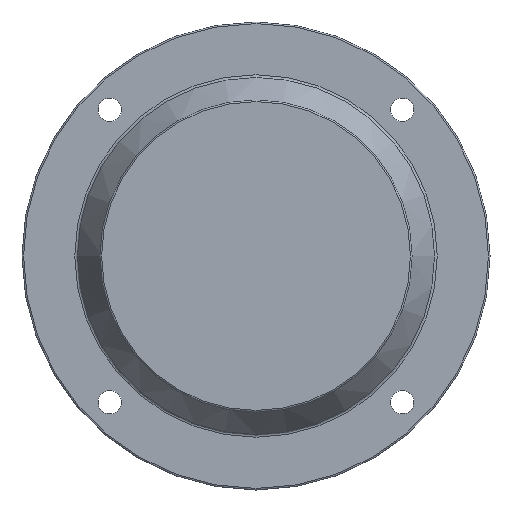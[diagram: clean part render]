
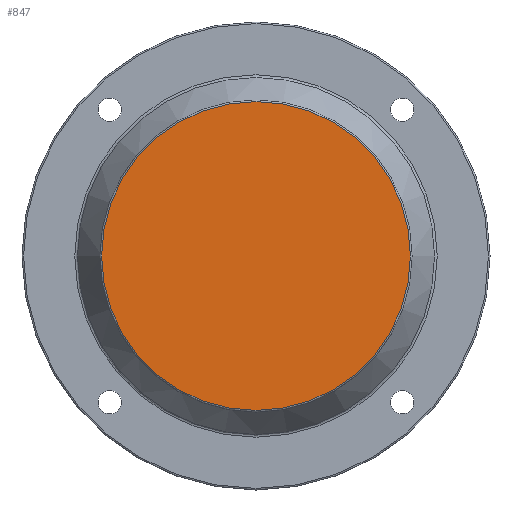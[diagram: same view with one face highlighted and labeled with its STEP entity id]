
A CAD part, left-side view. The second image highlights one B-rep face of the part: STEP entity #847.
In plain terms, the highlighted planar face has unit normal (-1, 0, 0).
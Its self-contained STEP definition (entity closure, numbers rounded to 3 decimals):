
#824=CARTESIAN_POINT('',(0.,99.0,0.0));
#825=VERTEX_POINT('',#824);
#826=CARTESIAN_POINT('',(0.,0.0,0.0));
#827=DIRECTION('',(1.0,0.0,0.0));
#828=DIRECTION('',(0.0,-1.0,0.0));
#829=AXIS2_PLACEMENT_3D('',#826,#827,#828);
#830=CIRCLE('',#829,99.0);
#831=EDGE_CURVE('',#825,#825,#830,.T.);
#839=CARTESIAN_POINT('',(0.,75.015,0.));
#840=DIRECTION('',(-1.0,0.0,0.0));
#841=DIRECTION('',(0.0,0.0,1.0));
#842=AXIS2_PLACEMENT_3D('',#839,#840,#841);
#843=PLANE('',#842);
#844=ORIENTED_EDGE('',*,*,#831,.F.);
#845=EDGE_LOOP('',(#844));
#846=FACE_OUTER_BOUND('',#845,.T.);
#847=ADVANCED_FACE('',(#846),#843,.T.);
